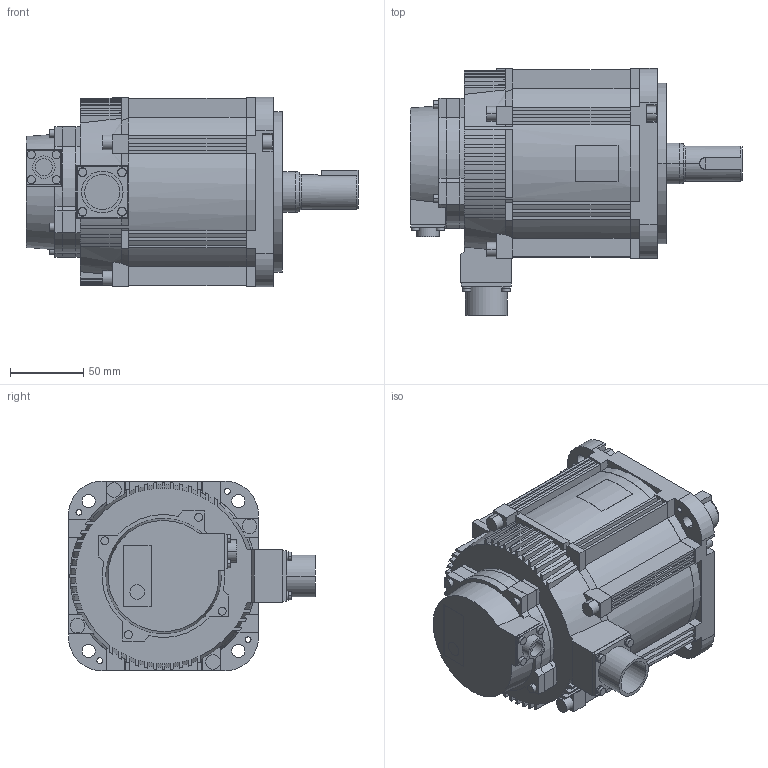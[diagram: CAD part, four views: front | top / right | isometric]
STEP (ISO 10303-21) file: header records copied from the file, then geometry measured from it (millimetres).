
FILE_DESCRIPTION( (''), '2;1');
FILE_NAME ('SGMXG-20AUA61C2.stp','2022-03-02T11:32:52',(''),(''),'spGate 15.6.6','','');
FILE_SCHEMA (('AUTOMOTIVE_DESIGN'));
Length unit declared in the file: millimetre
Products named in the file (3): Assembly; SGMXG-20AUA61C2-prt0; SGMXG-20AUA61C2-prt1
Assembly tree (2 placements, depth 2):
  Assembly
    SGMXG-20AUA61C2-prt0
    SGMXG-20AUA61C2-prt1
Bounding box: 227.2 x 169 x 130 mm (x, y, z)
Volume: 2056127.2 mm3; surface area: 156926.3 mm2
Topology: 2 solids, 2 shells, 667 faces, 1810 edges, 1194 vertices
Faces by surface type: plane 414, cylinder 188, bspline 65
Entity records: 35580 total; most frequent: CARTESIAN_POINT 4474, ORIENTED_EDGE 3620, DIRECTION 3429, COLOUR_RGB 2479, PRESENTATION_STYLE_ASSIGNMENT 2479, STYLED_ITEM 2479, EDGE_CURVE 1810, DRAUGHTING_PRE_DEFINED_CURVE_FONT 1810
